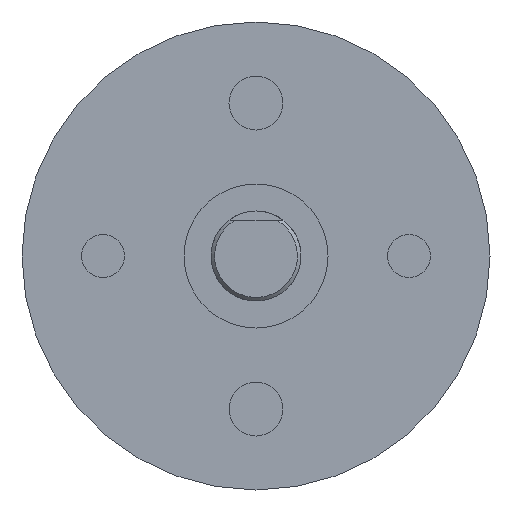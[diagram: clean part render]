
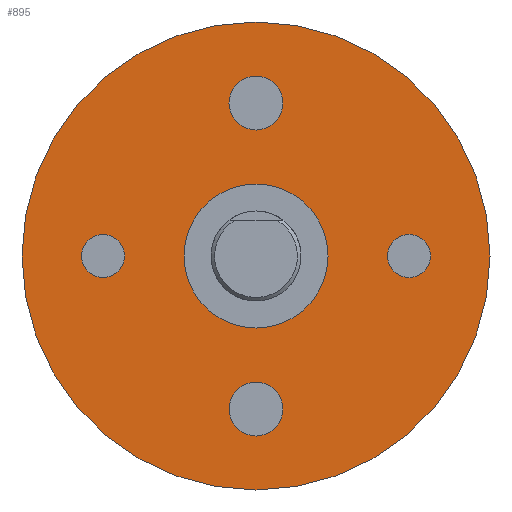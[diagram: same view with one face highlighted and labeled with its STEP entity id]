
A CAD part, front view. The second image highlights one B-rep face of the part: STEP entity #895.
In plain terms, the highlighted planar face has unit normal (0, -1, 0).
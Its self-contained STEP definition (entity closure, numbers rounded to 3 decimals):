
#660=CARTESIAN_POINT('',(1.5,0.0,8.5));
#661=VERTEX_POINT('',#660);
#662=CARTESIAN_POINT('',(0.,0.0,8.5));
#663=DIRECTION('',(0.0,1.0,0.0));
#664=DIRECTION('',(-1.0,0.0,0.0));
#665=AXIS2_PLACEMENT_3D('',#662,#663,#664);
#666=CIRCLE('',#665,1.5);
#667=EDGE_CURVE('',#661,#661,#666,.T.);
#697=CARTESIAN_POINT('',(1.5,0.0,-8.5));
#698=VERTEX_POINT('',#697);
#699=CARTESIAN_POINT('',(0.,0.0,-8.5));
#700=DIRECTION('',(0.0,1.0,0.0));
#701=DIRECTION('',(-1.0,0.0,0.0));
#702=AXIS2_PLACEMENT_3D('',#699,#700,#701);
#703=CIRCLE('',#702,1.5);
#704=EDGE_CURVE('',#698,#698,#703,.T.);
#734=CARTESIAN_POINT('',(-7.3,0.0,0.));
#735=VERTEX_POINT('',#734);
#736=CARTESIAN_POINT('',(-8.5,0.0,0.));
#737=DIRECTION('',(0.0,1.0,0.0));
#738=DIRECTION('',(-1.0,0.0,0.0));
#739=AXIS2_PLACEMENT_3D('',#736,#737,#738);
#740=CIRCLE('',#739,1.2);
#741=EDGE_CURVE('',#735,#735,#740,.T.);
#771=CARTESIAN_POINT('',(9.7,0.0,0.));
#772=VERTEX_POINT('',#771);
#773=CARTESIAN_POINT('',(8.5,0.0,0.));
#774=DIRECTION('',(0.0,1.0,0.0));
#775=DIRECTION('',(-1.0,0.0,0.0));
#776=AXIS2_PLACEMENT_3D('',#773,#774,#775);
#777=CIRCLE('',#776,1.2);
#778=EDGE_CURVE('',#772,#772,#777,.T.);
#808=CARTESIAN_POINT('',(4.0,0.0,0.));
#809=VERTEX_POINT('',#808);
#810=CARTESIAN_POINT('',(0.0,0.0,0.0));
#811=DIRECTION('',(0.0,1.0,0.0));
#812=DIRECTION('',(-1.0,0.0,0.0));
#813=AXIS2_PLACEMENT_3D('',#810,#811,#812);
#814=CIRCLE('',#813,4.0);
#815=EDGE_CURVE('',#809,#809,#814,.T.);
#848=CARTESIAN_POINT('',(-13.0,0.0,0.));
#849=VERTEX_POINT('',#848);
#850=CARTESIAN_POINT('',(0.0,0.0,0.0));
#851=DIRECTION('',(0.0,-1.0,0.0));
#852=DIRECTION('',(1.0,0.0,0.0));
#853=AXIS2_PLACEMENT_3D('',#850,#851,#852);
#854=CIRCLE('',#853,13.0);
#855=EDGE_CURVE('',#849,#849,#854,.T.);
#872=CARTESIAN_POINT('',(0.0,0.0,0.0));
#873=DIRECTION('',(0.0,-1.0,0.0));
#874=DIRECTION('',(0.0,0.0,-1.0));
#875=AXIS2_PLACEMENT_3D('',#872,#873,#874);
#876=PLANE('',#875);
#877=ORIENTED_EDGE('',*,*,#855,.T.);
#878=EDGE_LOOP('',(#877));
#879=FACE_OUTER_BOUND('',#878,.T.);
#880=ORIENTED_EDGE('',*,*,#667,.T.);
#881=EDGE_LOOP('',(#880));
#882=FACE_BOUND('',#881,.T.);
#883=ORIENTED_EDGE('',*,*,#704,.T.);
#884=EDGE_LOOP('',(#883));
#885=FACE_BOUND('',#884,.T.);
#886=ORIENTED_EDGE('',*,*,#741,.T.);
#887=EDGE_LOOP('',(#886));
#888=FACE_BOUND('',#887,.T.);
#889=ORIENTED_EDGE('',*,*,#778,.T.);
#890=EDGE_LOOP('',(#889));
#891=FACE_BOUND('',#890,.T.);
#892=ORIENTED_EDGE('',*,*,#815,.T.);
#893=EDGE_LOOP('',(#892));
#894=FACE_BOUND('',#893,.T.);
#895=ADVANCED_FACE('',(#879,#882,#885,#888,#891,#894),#876,.T.);
